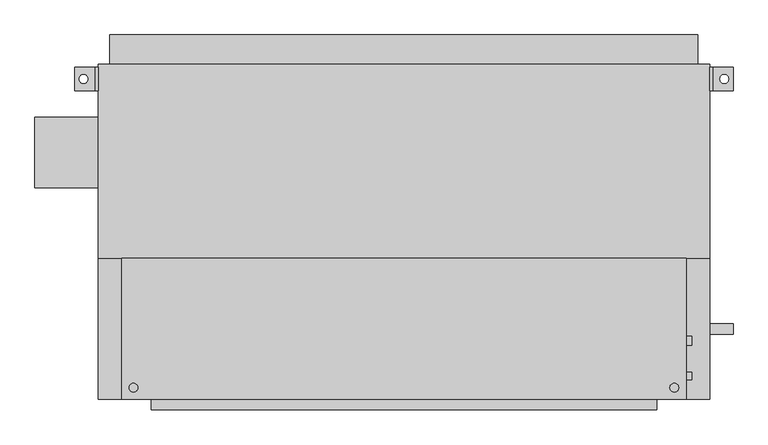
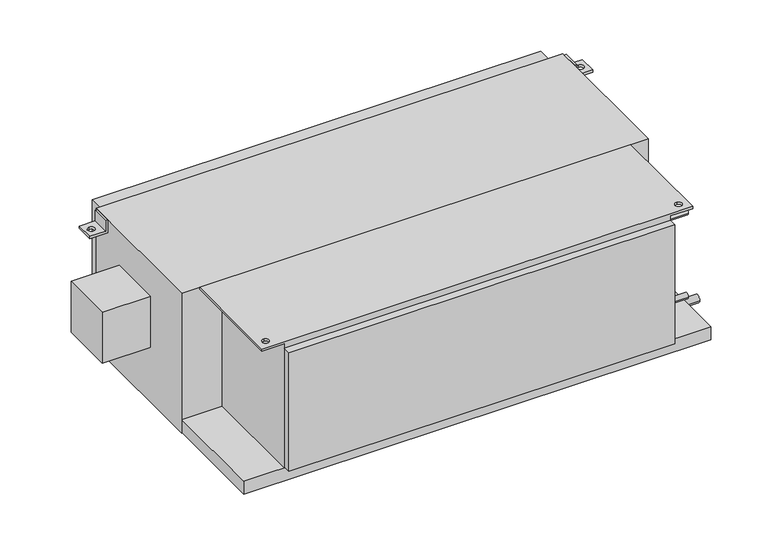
"""IFC4 building model written with IfcOpenShell, lengths in millimetres: proxy geometry, Concealed_High_Capacity_Horizontal_Fan_Coil_Unit_With_Plenum_-_42DCA_-_CARRIER_-_4-Pipe_RH_2022 : Size 18 - 277v/60Hz/1Ph - 6/2 Coil."""

from ifc_helpers import new_model, si_unit, point, frame, frame_2d, origin, place, context, project, spatial, polyline, circle_curve, trimmed, segment, composite_curve, outline, extrude, source, transform, mapped, element, save
from ifc_brep_helpers import plane_surface, revolved_surface, advanced_brep


def mechanical_equipment_481dc3fd(model_context):
    return source(origin(), model_context, "Body", "SolidModel", [
        advanced_brep(
        [(-457.2, -85.725, 0.0), (-457.2, -390.525, 0.0), (762.0, -390.525, 0.0), (762.0, -85.725, 0.0), (-431.8, -374.65, 0.0), (-431.8, -355.6, 0.0), (736.6, -374.65, 0.0), (736.6, -355.6, 0.0), (698.5, -85.725, -377.825), (698.5, -390.525, -377.825), (-393.7, -390.525, -377.825), (-393.7, -85.725, -377.825), (-393.7, -85.725, -6.35), (-457.2, -85.725, -6.35), (762.0, -85.725, -6.35), (698.5, -85.725, -6.35), (-393.7, -390.525, -6.35), (698.5, -390.525, -6.35), (762.0, -390.525, -6.35), (-457.2, -390.525, -6.35), (-431.8, -355.6, -6.35), (-431.8, -374.65, -6.35), (736.6, -355.6, -6.35), (736.6, -374.65, -6.35)],
        [
            (0, 1),
            (1, 2),
            (2, 3),
            (3, 0),
            (4, 5, circle_curve(frame((-431.8, -365.125, 0.0), z_axis=(0.0, 0.0, -1.0), x_axis=(0.0, 1.0, 0.0)), 9.525)),
            (5, 4, circle_curve(frame((-431.8, -365.125, 0.0), z_axis=(0.0, 0.0, -1.0), x_axis=(0.0, 1.0, 0.0)), 9.525)),
            (6, 7, circle_curve(frame((736.6, -365.125, 0.0), z_axis=(0.0, 0.0, -1.0), x_axis=(0.0, 1.0, 0.0)), 9.525)),
            (7, 6, circle_curve(frame((736.6, -365.125, 0.0), z_axis=(0.0, 0.0, -1.0), x_axis=(0.0, 1.0, 0.0)), 9.525)),
            (8, 9),
            (9, 10),
            (10, 11),
            (11, 8),
            (11, 12),
            (12, 13),
            (13, 0),
            (3, 14),
            (14, 15),
            (15, 8),
            (10, 16),
            (16, 12),
            (9, 17),
            (17, 18),
            (18, 2),
            (1, 19),
            (19, 16),
            (15, 17),
            (19, 13),
            (20, 21, circle_curve(frame((-431.8, -365.125, -6.35), z_axis=(0.0, 0.0, 1.0), x_axis=(0.0, 1.0, 0.0)), 9.525)),
            (21, 20, circle_curve(frame((-431.8, -365.125, -6.35), z_axis=(0.0, 0.0, 1.0), x_axis=(0.0, 1.0, 0.0)), 9.525)),
            (14, 18),
            (22, 23, circle_curve(frame((736.6, -365.125, -6.35), z_axis=(0.0, 0.0, 1.0), x_axis=(0.0, 1.0, 0.0)), 9.525)),
            (23, 22, circle_curve(frame((736.6, -365.125, -6.35), z_axis=(0.0, 0.0, 1.0), x_axis=(0.0, 1.0, 0.0)), 9.525)),
            (4, 21),
            (20, 5),
            (6, 23),
            (22, 7),
        ],
        [
            plane_surface(frame((-393.7, -85.725, 0.0), z_axis=(0.0, 0.0, 1.0), x_axis=(-1.0, 0.0, 0.0))),
            plane_surface(frame((-393.7, -85.725, -377.825), z_axis=(0.0, 0.0, -1.0), x_axis=(1.0, 0.0, 0.0))),
            plane_surface(frame((698.5, -85.725, 0.0), z_axis=(0.0, 1.0, 0.0), x_axis=(0.0, 0.0, -1.0))),
            plane_surface(frame((-393.7, -85.725, 0.0), z_axis=(-1.0, 0.0, 0.0), x_axis=(0.0, 0.0, -1.0))),
            plane_surface(frame((-393.7, -390.525, 0.0), z_axis=(0.0, -1.0, 0.0), x_axis=(0.0, 0.0, -1.0))),
            plane_surface(frame((698.5, -390.525, 0.0), z_axis=(1.0, 0.0, 0.0), x_axis=(0.0, 0.0, -1.0))),
            plane_surface(frame((-457.2, -85.725, -6.35), z_axis=(0.0, 0.0, -1.0), x_axis=(0.0, 1.0, 0.0))),
            plane_surface(frame((-457.2, -85.725, 0.0), z_axis=(-1.0, 0.0, 0.0), x_axis=(0.0, 0.0, -1.0))),
            plane_surface(frame((762.0, -390.525, 0.0), z_axis=(1.0, 0.0, 0.0), x_axis=(0.0, 0.0, -1.0))),
            revolved_surface(polyline([(-431.8, -355.6, -6.35), (-431.8, -355.6, 0.0)]), (-431.8, -365.125, 0.0), (0.0, 0.0, -1.0)),
            revolved_surface(polyline([(736.6, -355.6, -6.35), (736.6, -355.6, 0.0)]), (736.6, -365.125, 0.0), (0.0, 0.0, -1.0)),
        ],
        [
            (0, [[1, 2, 3, 4], [5, 6], [7, 8]]),
            (1, [[9, 10, 11, 12]]),
            (2, [[-12, 13, 14, 15, -4, 16, 17, 18]]),
            (3, [[-11, 19, 20, -13]]),
            (4, [[-10, 21, 22, 23, -2, 24, 25, -19]]),
            (5, [[-9, -18, 26, -21]]),
            (6, [[-14, -20, -25, 27], [28, 29]]),
            (6, [[30, -22, -26, -17], [31, 32]]),
            (7, [[-27, -24, -1, -15]]),
            (8, [[-30, -16, -3, -23]]),
            (9, [[33, -28, 34, -5]]),
            (9, [[-33, -6, -34, -29]]),
            (10, [[35, -31, 36, -7]]),
            (10, [[-35, -8, -36, -32]]),
        ],
    ),
        advanced_brep(
        [(-508.0, 327.025, -38.1), (-558.8, 327.025, -38.1), (-558.8, 327.025, -31.75), (-514.35, 327.025, -31.75), (-514.35, 327.025, 0.0), (-508.0, 327.025, 0.0), (-508.0, 276.225, -38.1), (-508.0, 276.225, 0.0), (-514.35, 276.225, 0.0), (-514.35, 276.225, -31.75), (-558.8, 276.225, -31.75), (-558.8, 276.225, -38.1), (-539.75, 292.1, -38.1), (-539.75, 311.15, -38.1), (-539.75, 311.15, -31.75), (-539.75, 292.1, -31.75)],
        [
            (0, 1),
            (1, 2),
            (2, 3),
            (3, 4),
            (4, 5),
            (5, 0),
            (6, 7),
            (7, 8),
            (8, 9),
            (9, 10),
            (10, 11),
            (11, 6),
            (0, 6),
            (11, 1),
            (12, 13, circle_curve(frame((-539.75, 301.625, -38.1), z_axis=(0.0, 0.0, 1.0), x_axis=(0.0, -1.0, 0.0)), 9.525)),
            (13, 12, circle_curve(frame((-539.75, 301.625, -38.1), z_axis=(0.0, 0.0, 1.0), x_axis=(0.0, -1.0, 0.0)), 9.525)),
            (10, 2),
            (9, 3),
            (14, 15, circle_curve(frame((-539.75, 301.625, -31.75), z_axis=(0.0, 0.0, -1.0), x_axis=(0.0, -1.0, 0.0)), 9.525)),
            (15, 14, circle_curve(frame((-539.75, 301.625, -31.75), z_axis=(0.0, 0.0, -1.0), x_axis=(0.0, -1.0, 0.0)), 9.525)),
            (8, 4),
            (7, 5),
            (14, 13),
            (12, 15),
        ],
        [
            plane_surface(frame((-508.0, 327.025, -38.1), z_axis=(0.0, 1.0, 0.0), x_axis=(-1.0, 0.0, 0.0))),
            plane_surface(frame((-508.0, 276.225, -38.1), z_axis=(0.0, -1.0, 0.0), x_axis=(1.0, 0.0, 0.0))),
            plane_surface(frame((-508.0, 327.025, -38.1), z_axis=(0.0, 0.0, -1.0), x_axis=(0.0, -1.0, 0.0))),
            plane_surface(frame((-558.8, 327.025, -38.1), z_axis=(-1.0, 0.0, 0.0), x_axis=(0.0, -1.0, 0.0))),
            plane_surface(frame((-558.8, 327.025, -31.75), z_axis=(0.0, 0.0, 1.0), x_axis=(0.0, -1.0, 0.0))),
            plane_surface(frame((-514.35, 327.025, -31.75), z_axis=(-1.0, 0.0, 0.0), x_axis=(0.0, -1.0, 0.0))),
            plane_surface(frame((-514.35, 327.025, 0.0), z_axis=(0.0, 0.0, 1.0), x_axis=(0.0, -1.0, 0.0))),
            plane_surface(frame((-508.0, 327.025, 0.0), z_axis=(1.0, 0.0, 0.0), x_axis=(0.0, -1.0, 0.0))),
            revolved_surface(polyline([(-539.75, 292.1, -38.1), (-539.75, 292.1, -31.75)]), (-539.75, 301.625, -31.75), (0.0, 0.0, -1.0)),
        ],
        [
            (0, [[1, 2, 3, 4, 5, 6]]),
            (1, [[7, 8, 9, 10, 11, 12]]),
            (2, [[-1, 13, -12, 14], [15, 16]]),
            (3, [[-2, -14, -11, 17]]),
            (4, [[-3, -17, -10, 18], [19, 20]]),
            (5, [[-4, -18, -9, 21]]),
            (6, [[-5, -21, -8, 22]]),
            (7, [[-6, -22, -7, -13]]),
            (8, [[23, -15, 24, -19]]),
            (8, [[-23, -20, -24, -16]]),
        ],
    ),
        advanced_brep(
        [(812.8, 327.025, -38.1), (812.8, 327.025, 0.0), (819.15, 327.025, 0.0), (819.15, 327.025, -31.75), (863.6, 327.025, -31.75), (863.6, 327.025, -38.1), (812.8, 276.225, -38.1), (863.6, 276.225, -38.1), (863.6, 276.225, -31.75), (819.15, 276.225, -31.75), (819.15, 276.225, 0.0), (812.8, 276.225, 0.0), (844.55, 311.15, -31.75), (844.55, 292.1, -31.75), (844.55, 292.1, -38.1), (844.55, 311.15, -38.1)],
        [
            (0, 1),
            (1, 2),
            (2, 3),
            (3, 4),
            (4, 5),
            (5, 0),
            (6, 7),
            (7, 8),
            (8, 9),
            (9, 10),
            (10, 11),
            (11, 6),
            (0, 6),
            (11, 1),
            (10, 2),
            (9, 3),
            (8, 4),
            (12, 13, circle_curve(frame((844.55, 301.625, -31.75), z_axis=(0.0, 0.0, -1.0), x_axis=(0.0, -1.0, 0.0)), 9.525)),
            (13, 12, circle_curve(frame((844.55, 301.625, -31.75), z_axis=(0.0, 0.0, -1.0), x_axis=(0.0, -1.0, 0.0)), 9.525)),
            (7, 5),
            (14, 15, circle_curve(frame((844.55, 301.625, -38.1), z_axis=(0.0, 0.0, 1.0), x_axis=(0.0, -1.0, 0.0)), 9.525)),
            (15, 14, circle_curve(frame((844.55, 301.625, -38.1), z_axis=(0.0, 0.0, 1.0), x_axis=(0.0, -1.0, 0.0)), 9.525)),
            (12, 15),
            (14, 13),
        ],
        [
            plane_surface(frame((-508.0, 327.025, -38.1), z_axis=(0.0, 1.0, 0.0), x_axis=(-1.0, 0.0, 0.0))),
            plane_surface(frame((-508.0, 276.225, -38.1), z_axis=(0.0, -1.0, 0.0), x_axis=(1.0, 0.0, 0.0))),
            plane_surface(frame((812.8, 327.025, -38.1), z_axis=(-1.0, 0.0, 0.0), x_axis=(0.0, -1.0, 0.0))),
            plane_surface(frame((812.8, 327.025, 0.0), z_axis=(0.0, 0.0, 1.0), x_axis=(0.0, -1.0, 0.0))),
            plane_surface(frame((819.15, 327.025, 0.0), z_axis=(1.0, 0.0, 0.0), x_axis=(0.0, -1.0, 0.0))),
            plane_surface(frame((819.15, 327.025, -31.75), z_axis=(0.0, 0.0, 1.0), x_axis=(0.0, -1.0, 0.0))),
            plane_surface(frame((863.6, 327.025, -31.75), z_axis=(1.0, 0.0, 0.0), x_axis=(0.0, -1.0, 0.0))),
            plane_surface(frame((863.6, 327.025, -38.1), z_axis=(0.0, 0.0, -1.0), x_axis=(0.0, -1.0, 0.0))),
            revolved_surface(polyline([(844.55, 292.1, -38.1), (844.55, 292.1, -31.75)]), (844.55, 301.625, -31.75), (0.0, 0.0, -1.0)),
        ],
        [
            (0, [[1, 2, 3, 4, 5, 6]]),
            (1, [[7, 8, 9, 10, 11, 12]]),
            (2, [[-1, 13, -12, 14]]),
            (3, [[-2, -14, -11, 15]]),
            (4, [[-3, -15, -10, 16]]),
            (5, [[-4, -16, -9, 17], [18, 19]]),
            (6, [[-5, -17, -8, 20]]),
            (7, [[-6, -20, -7, -13], [21, 22]]),
            (8, [[23, -21, 24, -18]]),
            (8, [[-23, -19, -24, -22]]),
        ],
    ),
        extrude(outline(polyline([(-482.6, 396.875), (787.4, 396.875), (787.4, 333.375), (-482.6, 333.375), (-482.6, 396.875)])), frame((0.0, 0.0, -377.825), z_axis=(0.0, 0.0, 1.0), x_axis=(1.0, 0.0, 0.0)), (0.0, 0.0, 1.0), 355.6),
        extrude(outline(composite_curve([segment(trimmed(circle_curve(frame_2d((-263.525, -76.2)), 9.525), [point((-254.0, -76.2))], [point((-273.05, -76.2))], False, "CARTESIAN"), True, "CONTINUOUS"), segment(trimmed(circle_curve(frame_2d((-263.525, -76.2)), 9.525), [point((-273.05, -76.2))], [point((-254.0, -76.2))], False, "CARTESIAN"), True, "CONTINUOUS")], self_intersect=False)), frame((698.5, 0.0, 0.0), z_axis=(1.0, 0.0, 0.0), x_axis=(0.0, 1.0, 0.0)), (0.0, 0.0, 1.0), 76.2),
        extrude(outline(composite_curve([segment(trimmed(circle_curve(frame_2d((-263.525, -301.625)), 9.525), [point((-254.0, -301.625))], [point((-273.05, -301.625))], False, "CARTESIAN"), True, "CONTINUOUS"), segment(trimmed(circle_curve(frame_2d((-263.525, -301.625)), 9.525), [point((-273.05, -301.625))], [point((-254.0, -301.625))], False, "CARTESIAN"), True, "CONTINUOUS")], self_intersect=False)), frame((698.5, 0.0, 0.0), z_axis=(1.0, 0.0, 0.0), x_axis=(0.0, 1.0, 0.0)), (0.0, 0.0, 1.0), 76.2),
        extrude(outline(composite_curve([segment(trimmed(circle_curve(frame_2d((-339.725, -50.8)), 7.9375), [point((-331.7875, -50.8))], [point((-347.6625, -50.8))], False, "CARTESIAN"), True, "CONTINUOUS"), segment(trimmed(circle_curve(frame_2d((-339.725, -50.8)), 7.9375), [point((-347.6625, -50.8))], [point((-331.7875, -50.8))], False, "CARTESIAN"), True, "CONTINUOUS")], self_intersect=False)), frame((698.5, 0.0, 0.0), z_axis=(1.0, 0.0, 0.0), x_axis=(0.0, 1.0, 0.0)), (0.0, 0.0, 1.0), 76.2),
        extrude(outline(composite_curve([segment(trimmed(circle_curve(frame_2d((-339.725, -301.625)), 7.9375), [point((-331.7875, -301.625))], [point((-347.6625, -301.625))], False, "CARTESIAN"), True, "CONTINUOUS"), segment(trimmed(circle_curve(frame_2d((-339.725, -301.625)), 7.9375), [point((-347.6625, -301.625))], [point((-331.7875, -301.625))], False, "CARTESIAN"), True, "CONTINUOUS")], self_intersect=False)), frame((698.5, 0.0, 0.0), z_axis=(1.0, 0.0, 0.0), x_axis=(0.0, 1.0, 0.0)), (0.0, 0.0, 1.0), 76.2),
        extrude(outline(composite_curve([segment(trimmed(circle_curve(frame_2d((-238.125, -403.225)), 11.1125), [point((-227.0125, -403.225))], [point((-249.2375, -403.225))], False, "CARTESIAN"), True, "CONTINUOUS"), segment(trimmed(circle_curve(frame_2d((-238.125, -403.225)), 11.1125), [point((-249.2375, -403.225))], [point((-227.0125, -403.225))], False, "CARTESIAN"), True, "CONTINUOUS")], self_intersect=False)), frame((812.8, 0.0, 0.0), z_axis=(1.0, 0.0, 0.0), x_axis=(0.0, 1.0, 0.0)), (0.0, 0.0, 1.0), 50.8),
        extrude(outline(polyline([(-644.525, 66.675), (-644.525, 219.075), (-508.0, 219.075), (-508.0, 66.675), (-644.525, 66.675)])), frame((0.0, 0.0, -254.0), z_axis=(0.0, 0.0, 1.0), x_axis=(1.0, 0.0, 0.0)), (0.0, 0.0, 1.0), 152.4),
        extrude(outline(polyline([(698.5, -412.75), (-393.7, -412.75), (-393.7, -390.525), (698.5, -390.525), (698.5, -412.75)])), frame((0.0, 0.0, -374.65), z_axis=(0.0, 0.0, 1.0), x_axis=(1.0, 0.0, 0.0)), (0.0, 0.0, 1.0), 355.6),
        extrude(outline(polyline([(812.8, -85.725), (-508.0, -85.725), (-508.0, 333.375), (812.8, 333.375), (812.8, -85.725)])), frame((0.0, 0.0, -419.1), z_axis=(0.0, 0.0, 1.0), x_axis=(1.0, 0.0, 0.0)), (0.0, 0.0, 1.0), 419.1),
        extrude(outline(polyline([(812.8, -85.725), (812.8, -390.525), (-508.0, -390.525), (-508.0, -85.725), (812.8, -85.725)])), frame((0.0, 0.0, -415.925), z_axis=(0.0, 0.0, 1.0), x_axis=(1.0, 0.0, 0.0)), (0.0, 0.0, 1.0), 38.1),
    ])


if __name__ == "__main__":
    model = new_model("IFC4")
    model_context = context("Model", 3, world=origin())
    ifc_project = project(units=[si_unit("LENGTHUNIT", "METRE", prefix="MILLI")], contexts=[model_context])
    site = spatial("IfcSite", under=ifc_project)
    building = spatial("IfcBuilding", under=site)
    placement = place(None, origin())
    mechanical_equipment_shape = mechanical_equipment_481dc3fd(model_context)
    element("IfcBuildingElementProxy", 1, Name="Concealed_High_Capacity_Horizontal_Fan_Coil_Unit_With_Plenum_-_42DCA_-_CARRIER_-_4-Pipe_RH_2022 : Size 18 - 277v/60Hz/1Ph - 6/2 Coil", ObjectType="Concealed_High_Capacity_Horizontal_Fan_Coil_Unit_With_Plenum_-_42DCA_-_CARRIER_-_4-Pipe_RH_2022 : Size 18 - 277v/60Hz/1Ph - 6/2 Coil", at=placement, inside=building, context=model_context, shape_type="MappedRepresentation", body=[
        mapped(mechanical_equipment_shape, transform((0.0, 0.0, 0.0), x_axis=(1.0, 0.0, 0.0), y_axis=(0.0, 1.0, 0.0), z_axis=(0.0, 0.0, 1.0))),
    ])
    save(model, "model.ifc")
